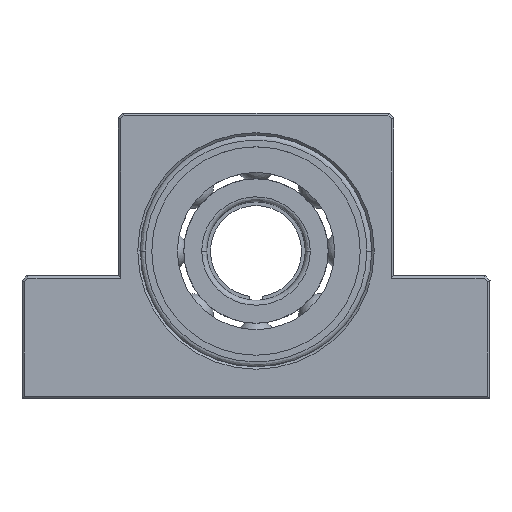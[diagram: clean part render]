
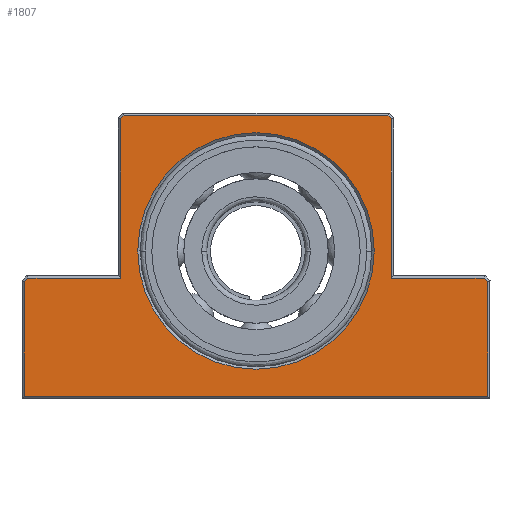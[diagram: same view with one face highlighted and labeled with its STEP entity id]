
A CAD part, top view. The second image highlights one B-rep face of the part: STEP entity #1807.
In plain terms, the highlighted planar face has unit normal (0, 0, 1).
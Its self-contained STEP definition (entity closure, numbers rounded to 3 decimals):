
#86 = VECTOR ( 'NONE', #4100, 1000. ) ;
#224 = CARTESIAN_POINT ( 'NONE',  ( 62.058, -34.736, 13. ) ) ;
#349 = CARTESIAN_POINT ( 'NONE',  ( 42.558, -10.092, 13. ) ) ;
#388 = ORIENTED_EDGE ( 'NONE', *, *, #892, .F. ) ;
#803 = CARTESIAN_POINT ( 'NONE',  ( -31.235, -10.092, 13. ) ) ;
#840 = VERTEX_POINT ( 'NONE', #10934 ) ;
#892 = EDGE_CURVE ( 'NONE', #11282, #13226, #3039, .T. ) ;
#1103 = CARTESIAN_POINT ( 'NONE',  ( 62.058, -10.799, 13. ) ) ;
#1206 = DIRECTION ( 'NONE',  ( 0., 1., 0. ) ) ;
#1415 = EDGE_CURVE ( 'NONE', #840, #3314, #1752, .T. ) ;
#1458 = DIRECTION ( 'NONE',  ( 0.707, -0.707, 0. ) ) ;
#1462 = DIRECTION ( 'NONE',  ( 1., 0., 0. ) ) ;
#1479 = ORIENTED_EDGE ( 'NONE', *, *, #5036, .T. ) ;
#1481 = LINE ( 'NONE', #11308, #10084 ) ;
#1608 = CIRCLE ( 'NONE', #11369, 24. ) ;
#1625 = ORIENTED_EDGE ( 'NONE', *, *, #4894, .F. ) ;
#1752 = LINE ( 'NONE', #2085, #13302 ) ;
#1807 = ADVANCED_FACE ( 'NONE', ( #9255, #5522 ), #5769, .T. ) ;
#1973 = DIRECTION ( 'NONE',  ( -0.707, -0.707, 0. ) ) ;
#2085 = CARTESIAN_POINT ( 'NONE',  ( -33.012, -34.092, 13. ) ) ;
#2214 = CARTESIAN_POINT ( 'NONE',  ( 15.058, -4.592, 13. ) ) ;
#2289 = CARTESIAN_POINT ( 'NONE',  ( -31.942, -10.799, 13. ) ) ;
#2635 = CARTESIAN_POINT ( 'NONE',  ( -31.556, -10.092, 13. ) ) ;
#2674 = VECTOR ( 'NONE', #10325, 1000. ) ;
#2752 = ORIENTED_EDGE ( 'NONE', *, *, #1415, .F. ) ;
#3039 = LINE ( 'NONE', #5202, #3815 ) ;
#3043 = CARTESIAN_POINT ( 'NONE',  ( -11.735, 22.908, 13. ) ) ;
#3314 = VERTEX_POINT ( 'NONE', #5140 ) ;
#3542 = ORIENTED_EDGE ( 'NONE', *, *, #9361, .F. ) ;
#3793 = EDGE_CURVE ( 'NONE', #3314, #9471, #5912, .T. ) ;
#3815 = VECTOR ( 'NONE', #10258, 1000. ) ;
#4048 = VERTEX_POINT ( 'NONE', #1103 ) ;
#4090 = EDGE_LOOP ( 'NONE', ( #8189, #14774 ) ) ;
#4100 = DIRECTION ( 'NONE',  ( 0., -1., 0. ) ) ;
#4606 = AXIS2_PLACEMENT_3D ( 'NONE', #11895, #5605, #9407 ) ;
#4680 = CARTESIAN_POINT ( 'NONE',  ( -31.942, -34.736, 13. ) ) ;
#4894 = EDGE_CURVE ( 'NONE', #8845, #13689, #5653, .T. ) ;
#5006 = DIRECTION ( 'NONE',  ( 1., 0., 0. ) ) ;
#5036 = EDGE_CURVE ( 'NONE', #11282, #7820, #6542, .T. ) ;
#5140 = CARTESIAN_POINT ( 'NONE',  ( -31.942, -34.092, 13. ) ) ;
#5180 = LINE ( 'NONE', #12615, #6421 ) ;
#5202 = CARTESIAN_POINT ( 'NONE',  ( -12.266, 22.908, 13. ) ) ;
#5344 = LINE ( 'NONE', #224, #86 ) ;
#5522 = FACE_OUTER_BOUND ( 'NONE', #7730, .T. ) ;
#5605 = DIRECTION ( 'NONE',  ( 0., 0., 1. ) ) ;
#5653 = LINE ( 'NONE', #11859, #7655 ) ;
#5769 = PLANE ( 'NONE',  #4606 ) ;
#5900 = CIRCLE ( 'NONE', #10148, 24. ) ;
#5912 = LINE ( 'NONE', #4680, #8728 ) ;
#5949 = ORIENTED_EDGE ( 'NONE', *, *, #13908, .F. ) ;
#6067 = EDGE_CURVE ( 'NONE', #9039, #9471, #9318, .T. ) ;
#6345 = ORIENTED_EDGE ( 'NONE', *, *, #14776, .F. ) ;
#6421 = VECTOR ( 'NONE', #1458, 1000. ) ;
#6542 = LINE ( 'NONE', #12678, #10477 ) ;
#6754 = CARTESIAN_POINT ( 'NONE',  ( 39.058, -4.592, 13. ) ) ;
#7514 = DIRECTION ( 'NONE',  ( -0.707, 0.707, 0. ) ) ;
#7655 = VECTOR ( 'NONE', #15554, 1000. ) ;
#7730 = EDGE_LOOP ( 'NONE', ( #1479, #5949, #12249, #10889, #11737, #2752, #3542, #12539, #1625, #6345, #11183, #388 ) ) ;
#7820 = VERTEX_POINT ( 'NONE', #9756 ) ;
#8189 = ORIENTED_EDGE ( 'NONE', *, *, #11408, .T. ) ;
#8498 = DIRECTION ( 'NONE',  ( 0., 1., 0. ) ) ;
#8617 = EDGE_CURVE ( 'NONE', #13226, #12459, #5180, .T. ) ;
#8728 = VECTOR ( 'NONE', #1206, 1000. ) ;
#8744 = VECTOR ( 'NONE', #8498, 1000. ) ;
#8845 = VERTEX_POINT ( 'NONE', #349 ) ;
#8916 = VECTOR ( 'NONE', #1973, 1000. ) ;
#8988 = LINE ( 'NONE', #14028, #2674 ) ;
#9039 = VERTEX_POINT ( 'NONE', #13560 ) ;
#9208 = VECTOR ( 'NONE', #1462, 1000. ) ;
#9255 = FACE_BOUND ( 'NONE', #4090, .T. ) ;
#9318 = LINE ( 'NONE', #803, #8916 ) ;
#9344 = DIRECTION ( 'NONE',  ( 0., 0., -1. ) ) ;
#9361 = EDGE_CURVE ( 'NONE', #4048, #840, #5344, .T. ) ;
#9407 = DIRECTION ( 'NONE',  ( 1., 0., 0. ) ) ;
#9471 = VERTEX_POINT ( 'NONE', #2289 ) ;
#9756 = CARTESIAN_POINT ( 'NONE',  ( -12.442, 22.201, 13. ) ) ;
#9854 = VERTEX_POINT ( 'NONE', #6754 ) ;
#10084 = VECTOR ( 'NONE', #7514, 1000. ) ;
#10148 = AXIS2_PLACEMENT_3D ( 'NONE', #2214, #11364, #5006 ) ;
#10258 = DIRECTION ( 'NONE',  ( 1., 0., 0. ) ) ;
#10325 = DIRECTION ( 'NONE',  ( 0., -1., 0. ) ) ;
#10477 = VECTOR ( 'NONE', #11592, 1000. ) ;
#10534 = CARTESIAN_POINT ( 'NONE',  ( 42.558, 22.201, 13. ) ) ;
#10831 = CARTESIAN_POINT ( 'NONE',  ( 61.351, -10.092, 13. ) ) ;
#10889 = ORIENTED_EDGE ( 'NONE', *, *, #6067, .T. ) ;
#10934 = CARTESIAN_POINT ( 'NONE',  ( 62.058, -34.092, 13. ) ) ;
#11183 = ORIENTED_EDGE ( 'NONE', *, *, #8617, .F. ) ;
#11282 = VERTEX_POINT ( 'NONE', #3043 ) ;
#11308 = CARTESIAN_POINT ( 'NONE',  ( 62.058, -10.799, 13. ) ) ;
#11364 = DIRECTION ( 'NONE',  ( 0., 0., -1. ) ) ;
#11369 = AXIS2_PLACEMENT_3D ( 'NONE', #15682, #9344, #15860 ) ;
#11408 = EDGE_CURVE ( 'NONE', #9854, #13463, #5900, .T. ) ;
#11592 = DIRECTION ( 'NONE',  ( -0.707, -0.707, 0. ) ) ;
#11737 = ORIENTED_EDGE ( 'NONE', *, *, #3793, .F. ) ;
#11859 = CARTESIAN_POINT ( 'NONE',  ( 42.444, -10.092, 13. ) ) ;
#11895 = CARTESIAN_POINT ( 'NONE',  ( -31.942, -34.092, 13. ) ) ;
#12110 = CARTESIAN_POINT ( 'NONE',  ( 41.851, 22.908, 13. ) ) ;
#12249 = ORIENTED_EDGE ( 'NONE', *, *, #15737, .F. ) ;
#12459 = VERTEX_POINT ( 'NONE', #10534 ) ;
#12539 = ORIENTED_EDGE ( 'NONE', *, *, #13624, .T. ) ;
#12615 = CARTESIAN_POINT ( 'NONE',  ( 41.851, 22.908, 13. ) ) ;
#12678 = CARTESIAN_POINT ( 'NONE',  ( -11.735, 22.908, 13. ) ) ;
#12753 = CARTESIAN_POINT ( 'NONE',  ( -12.442, -10.092, 13. ) ) ;
#13226 = VERTEX_POINT ( 'NONE', #12110 ) ;
#13302 = VECTOR ( 'NONE', #15605, 1000. ) ;
#13432 = EDGE_CURVE ( 'NONE', #13463, #9854, #1608, .T. ) ;
#13463 = VERTEX_POINT ( 'NONE', #14853 ) ;
#13560 = CARTESIAN_POINT ( 'NONE',  ( -31.235, -10.092, 13. ) ) ;
#13624 = EDGE_CURVE ( 'NONE', #4048, #13689, #1481, .T. ) ;
#13689 = VERTEX_POINT ( 'NONE', #10831 ) ;
#13696 = LINE ( 'NONE', #2635, #9208 ) ;
#13908 = EDGE_CURVE ( 'NONE', #14488, #7820, #15917, .T. ) ;
#14028 = CARTESIAN_POINT ( 'NONE',  ( 42.558, -10.287, 13. ) ) ;
#14488 = VERTEX_POINT ( 'NONE', #12753 ) ;
#14774 = ORIENTED_EDGE ( 'NONE', *, *, #13432, .T. ) ;
#14776 = EDGE_CURVE ( 'NONE', #12459, #8845, #8988, .T. ) ;
#14832 = CARTESIAN_POINT ( 'NONE',  ( -12.442, -10.287, 13. ) ) ;
#14853 = CARTESIAN_POINT ( 'NONE',  ( -8.942, -4.592, 13. ) ) ;
#15554 = DIRECTION ( 'NONE',  ( 1., 0., 0. ) ) ;
#15605 = DIRECTION ( 'NONE',  ( -1., 0., 0. ) ) ;
#15682 = CARTESIAN_POINT ( 'NONE',  ( 15.058, -4.592, 13. ) ) ;
#15737 = EDGE_CURVE ( 'NONE', #9039, #14488, #13696, .T. ) ;
#15860 = DIRECTION ( 'NONE',  ( 1., 0., 0. ) ) ;
#15917 = LINE ( 'NONE', #14832, #8744 ) ;
